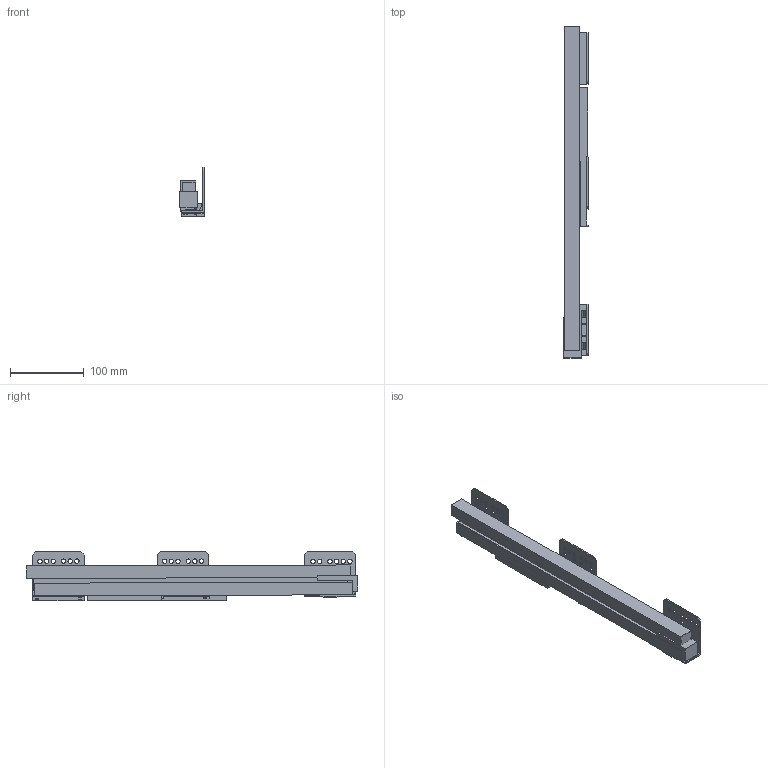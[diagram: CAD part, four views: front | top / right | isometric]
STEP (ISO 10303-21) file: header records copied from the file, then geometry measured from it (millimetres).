
FILE_DESCRIPTION (( 'STEP AP214' ), '1' );
FILE_NAME ('_IMOS Dynamic-XP VA 60kg NL450 RE.step', '2010-07-07T08:07:36', ( 'grass' ), ( '' ), 'SwSTEP 2.0', 'SolidWorks 2010', '' );
FILE_SCHEMA (( 'AUTOMOTIVE_DESIGN' ));
Length unit declared in the file: millimetre
Products named in the file (1): _IMOS Dynamic-XP VA 60kg NL450 RE
Bounding box: 32.79 x 449.89 x 66.67 mm (x, y, z)
Volume: 441128.3 mm3; surface area: 169544.9 mm2
Topology: 8 solids, 8 shells, 205 faces, 567 edges, 378 vertices
Faces by surface type: plane 141, cylinder 64
Entity records: 6754 total; most frequent: CARTESIAN_POINT 1151, ORIENTED_EDGE 1134, DIRECTION 1107, EDGE_CURVE 567, LINE 439, VECTOR 439, VERTEX_POINT 378, AXIS2_PLACEMENT_3D 334
